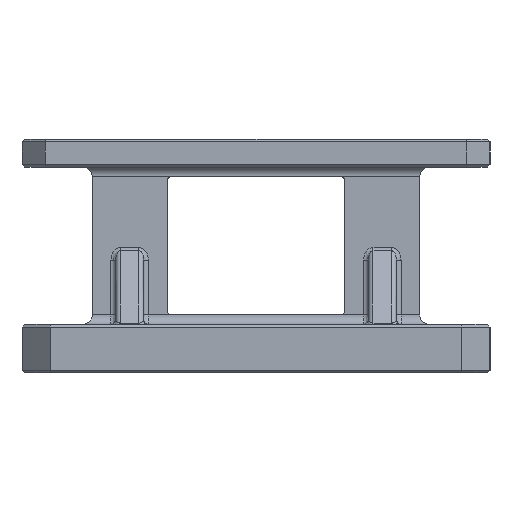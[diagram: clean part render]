
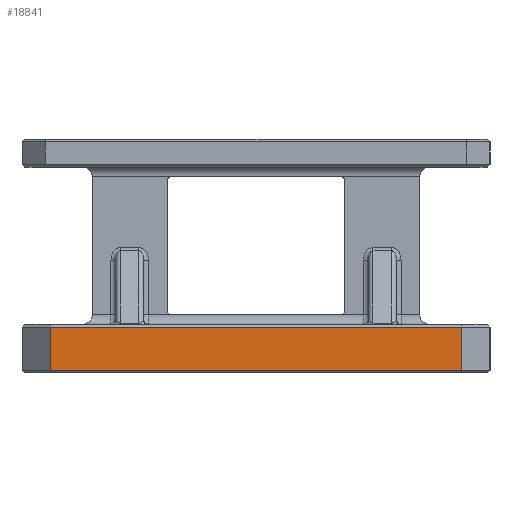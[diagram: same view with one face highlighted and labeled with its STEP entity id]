
A CAD part, left-side view. The second image highlights one B-rep face of the part: STEP entity #18841.
In plain terms, the highlighted planar face has unit normal (-1, 0, 0).
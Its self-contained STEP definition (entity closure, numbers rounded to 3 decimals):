
#1847=DIRECTION('',(0.,1.,0.));
#1848=VECTOR('',#1847,440.);
#1849=CARTESIAN_POINT('',(-500.,-220.,-23.));
#1850=LINE('',#1849,#1848);
#1851=DIRECTION('',(0.,0.,-1.));
#1852=VECTOR('',#1851,46.);
#1853=CARTESIAN_POINT('',(-500.,220.,23.));
#1854=LINE('',#1853,#1852);
#1855=DIRECTION('',(0.,-1.,0.));
#1856=VECTOR('',#1855,440.);
#1857=CARTESIAN_POINT('',(-500.,220.,23.));
#1858=LINE('',#1857,#1856);
#1859=DIRECTION('',(0.,0.,-1.));
#1860=VECTOR('',#1859,46.);
#1861=CARTESIAN_POINT('',(-500.,-220.,23.));
#1862=LINE('',#1861,#1860);
#13853=CARTESIAN_POINT('',(-500.,-220.,-23.));
#13854=CARTESIAN_POINT('',(-500.,220.,-23.));
#13855=VERTEX_POINT('',#13853);
#13856=VERTEX_POINT('',#13854);
#13915=CARTESIAN_POINT('',(-500.,220.,23.));
#13916=VERTEX_POINT('',#13915);
#13925=CARTESIAN_POINT('',(-500.,-220.,23.));
#13926=VERTEX_POINT('',#13925);
#18829=CARTESIAN_POINT('',(-500.,250.,-26.));
#18830=DIRECTION('',(-1.,0.,0.));
#18831=DIRECTION('',(0.,-1.,0.));
#18832=AXIS2_PLACEMENT_3D('',#18829,#18830,#18831);
#18833=PLANE('',#18832);
#18834=ORIENTED_EDGE('',*,*,#18639,.T.);
#18835=ORIENTED_EDGE('',*,*,#18670,.F.);
#18837=ORIENTED_EDGE('',*,*,#18836,.T.);
#18838=ORIENTED_EDGE('',*,*,#18809,.T.);
#18839=EDGE_LOOP('',(#18834,#18835,#18837,#18838));
#18840=FACE_OUTER_BOUND('',#18839,.F.);
#18841=ADVANCED_FACE('',(#18840),#18833,.T.);
#18639=EDGE_CURVE('',#13855,#13856,#1850,.T.);
#18670=EDGE_CURVE('',#13916,#13856,#1854,.T.);
#18809=EDGE_CURVE('',#13926,#13855,#1862,.T.);
#18836=EDGE_CURVE('',#13916,#13926,#1858,.T.);
